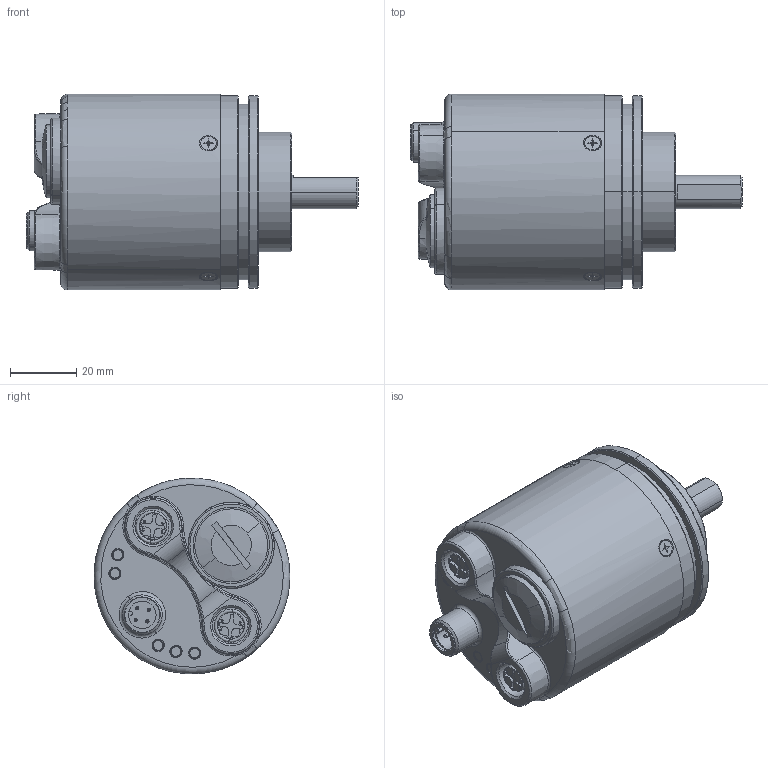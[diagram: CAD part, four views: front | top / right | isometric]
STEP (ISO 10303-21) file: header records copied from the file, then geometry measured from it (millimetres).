
FILE_DESCRIPTION (( 'STEP AP203' ), '1' );
FILE_NAME ('8.F5868.12AN.A222.STEP', '2016-01-28T11:05:58', ( 'LauferA' ), ( 'Microsoft' ), 'SwSTEP 2.0', 'SolidWorks 2013', '' );
FILE_SCHEMA (( 'CONFIG_CONTROL_DESIGN' ));
Length unit declared in the file: millimetre
Products named in the file (1): 8.F5868.12AN.A222
Bounding box: 100 x 59 x 58.96 mm (x, y, z)
Volume: 77800.5 mm3; surface area: 51922.4 mm2
Topology: 19 solids, 23 shells, 2799 faces, 7253 edges, 4465 vertices
Faces by surface type: plane 1017, cylinder 1009, bspline 285, cone 265, torus 187, sphere 36
Entity records: 92640 total; most frequent: CARTESIAN_POINT 25279, ORIENTED_EDGE 14328, DIRECTION 14127, EDGE_CURVE 7164, AXIS2_PLACEMENT_3D 5215, VERTEX_POINT 4465, LINE 3697, VECTOR 3697
